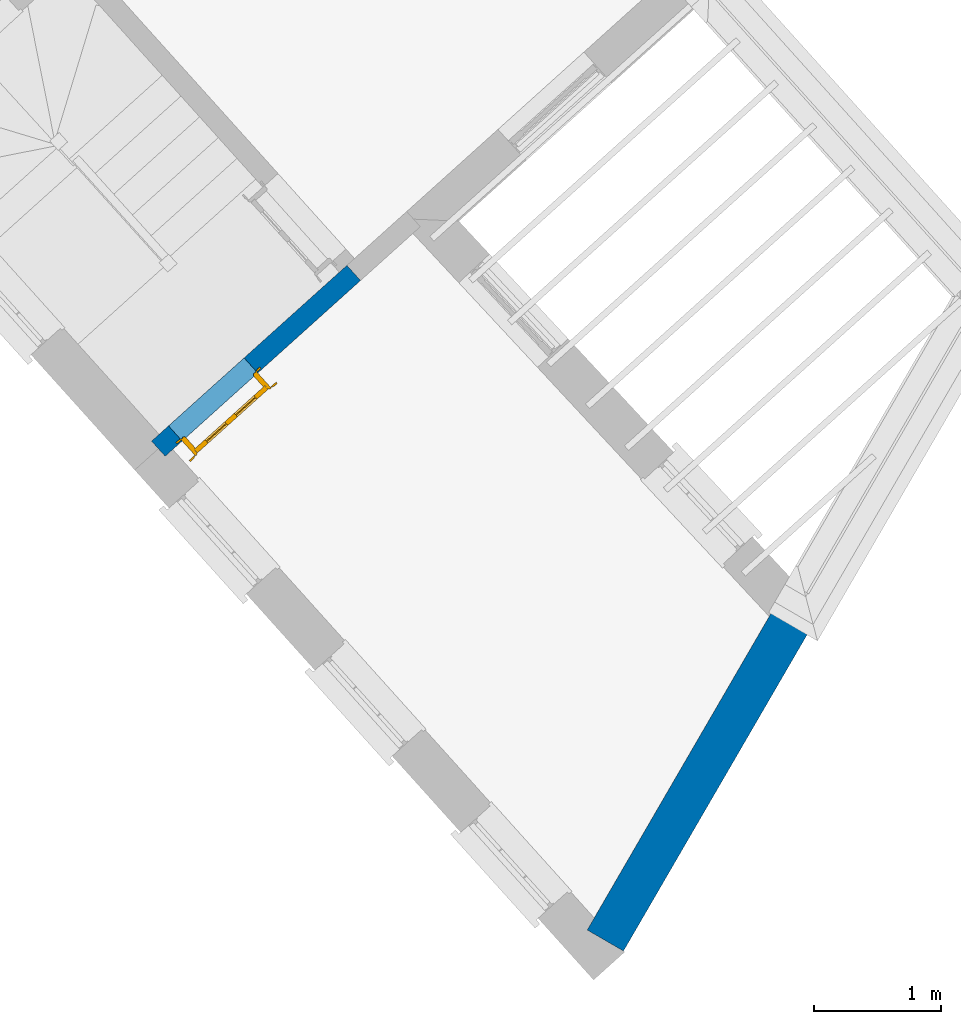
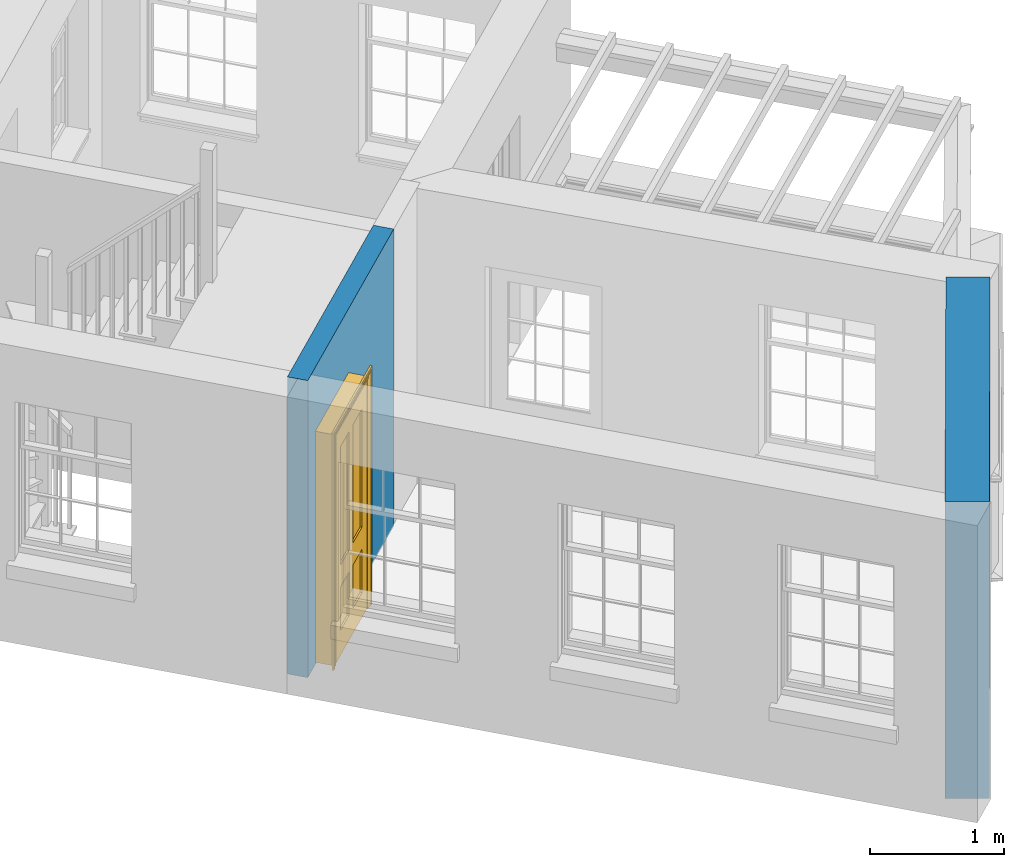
# One storey, part 2 of 7: 2 walls, 1 door, 1 opening.
"""IFC4 building model written with IfcOpenShell, lengths in metres."""

from ifc_helpers import new_model, si_unit, frame, origin, origin_with_axes, place, context, subcontext, project, spatial, polyline, outline, extrude, faceted_brep, source, transform, mapped, material, layer, layer_set, layer_usage, type_object, type_shapes, element, fill, save


model = new_model("IFC4")

# Units and contexts
model_context = context("Model", 3, world=origin_with_axes())
body_context = subcontext(model_context, "Body", "Model", "MODEL_VIEW")
ifc_project = project(units=[si_unit("PLANEANGLEUNIT", "RADIAN"), si_unit("MASSUNIT", "GRAM", prefix="KILO"), si_unit("FORCEUNIT", "NEWTON", prefix="KILO"), si_unit("LENGTHUNIT", "METRE"), si_unit("AREAUNIT", "SQUARE_METRE"), si_unit("VOLUMEUNIT", "CUBIC_METRE")], contexts=[model_context, model_context])

# Sites, building, storey
site_1_placement = place(None, origin_with_axes())
site_1 = spatial("IfcSite", under=ifc_project, at=site_1_placement, Name="Tamar")
site_2_placement = place(site_1_placement, origin_with_axes())
site_2 = spatial("IfcSite", under=site_1, at=site_2_placement, Name="Site plot-7", CompositionType="ELEMENT")
building_placement = place(None, origin_with_axes())
building = spatial("IfcBuilding", under=site_2, at=building_placement, Name="Building plot-7", CompositionType="ELEMENT")
storey_placement = place(None, frame((0.0, 0.0, 29.15), z_axis=(0.0, 0.0, 1.0), x_axis=(1.0, 0.0, 0.0)))
storey = spatial("IfcBuildingStorey", under=building, at=storey_placement, Name="plot-7 1", CompositionType="ELEMENT", Elevation=29.15)

# Wall
ifc_material_1 = material(Name="Masonry")
ifc_layer_1 = layer(ifc_material_1, 0.33, ventilated=False)
ifc_layer_set_1 = layer_set([ifc_layer_1], Name="party_0.08_0.25")
ifc_layer_usage_1 = layer_usage(ifc_layer_set_1, "AXIS2", "POSITIVE", -0.25)
wall_type_1 = type_object("IfcWallType", Name="party_0.08_0.25", PredefinedType="SOLIDWALL", material=ifc_layer_set_1)
wall_1_placement = place(storey_placement, frame((245.157517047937, 280.815311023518, 0.0), z_axis=(0.0, 0.0, 1.0), x_axis=(0.502058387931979, 0.864833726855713, 0.0)))
element("IfcWall", 1, at=wall_1_placement, inside=storey, type_object=wall_type_1, material=ifc_layer_usage_1, Name="party", context=body_context, shape_type="SweptSolid", body=[
    extrude(outline(polyline([(1.4233516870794e-14, 0.0800000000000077), (-8.3668757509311e-15, -0.250000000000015), (2.91324546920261, -0.250000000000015), (2.91324546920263, 0.0800000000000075), (1.4233516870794e-14, 0.0800000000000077)])), origin_with_axes(), (0.0, 0.0, 1.0), 2.7),
])

# Wall, opening, door
ifc_material_2 = material(Name="Masonry")
ifc_layer_2 = layer(ifc_material_2, 0.16, ventilated=False)
ifc_layer_set_2 = layer_set([ifc_layer_2], Name="interior_0.08_0.08")
ifc_layer_usage_2 = layer_usage(ifc_layer_set_2, "AXIS2", "POSITIVE", -0.08)
wall_type_2 = type_object("IfcWallType", Name="interior_0.08_0.08", PredefinedType="SOLIDWALL", material=ifc_layer_set_2)
wall_2_placement = place(storey_placement, frame((243.250490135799, 286.027875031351, 0.0), z_axis=(0.0, 0.0, 1.0), x_axis=(-0.743394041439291, -0.668853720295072, 0.0)))
wall_2 = element("IfcWall", 2, at=wall_2_placement, inside=storey, type_object=wall_type_2, material=ifc_layer_usage_2, Name="interior", context=body_context, shape_type="SweptSolid", body=[
    extrude(outline(polyline([(4.81699484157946e-15, 0.0800000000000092), (-4.79126487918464e-15, -0.0800000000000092), (2.0687703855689, -0.0800000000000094), (2.06877038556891, 0.0800000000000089), (4.81699484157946e-15, 0.0800000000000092)])), origin_with_axes(), (0.0, 0.0, 1.0), 2.7),
])
opening_placement = place(wall_2_placement, frame((1.08877038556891, 0.0, 0.0199999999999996)))
opening = element("IfcOpeningElement", 3, at=opening_placement, cuts=wall_2, Name="My Opening", ObjectType="Opening", context=body_context, shape_type="SweptSolid", body=[
    extrude(outline(polyline([(0.0, -0.0999999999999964), (0.799999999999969, -0.10000000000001), (0.799999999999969, 1.09999999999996), (8.88178419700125e-16, 1.09999999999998), (0.0, -0.0999999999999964)])), origin_with_axes(), (0.0, 0.0, 1.0), 2.1),
])
door_type = type_object("IfcDoorType", Name="door_inside", OperationType="SINGLE_SWING_LEFT", PredefinedType="NOTDEFINED")
shared_shape = source(origin(), body_context, "Body", "Brep", [
    faceted_brep([(0.773, 0.33, 1.895), (0.66, 0.33, 1.895), (0.66, 0.33, 2.073), (0.773, 0.33, 2.073), (0.773, 0.33, 0.82), (0.66, 0.33, 0.82), (0.45, 0.33, 1.895), (0.45, 0.33, 2.073), (0.773, 0.33, 0.62), (0.66, 0.33, 0.62), (0.66, 0.315, 0.82), (0.66, 0.315, 1.895), (0.45, 0.315, 1.895), (0.35, 0.33, 1.895), (0.35, 0.33, 2.073), (0.773, 0.33, 0.225), (0.66, 0.33, 0.225), (0.45, 0.33, 0.62), (0.45, 0.33, 0.82), (0.45, 0.315, 0.82), (0.35, 0.33, 0.82), (0.14, 0.33, 2.073), (0.14, 0.33, 1.895), (0.773, 0.33, 0.0), (0.66, 0.33, 0.0), (0.66, 0.315, 0.225), (0.66, 0.315, 0.62), (0.45, 0.315, 0.62), (0.35, 0.33, 0.62), (0.35, 0.315, 0.82), (0.35, 0.315, 1.895), (0.14, 0.315, 1.895), (0.027, 0.33, 2.073), (0.027, 0.33, 1.895), (0.773, 0.292, 0.0), (0.66, 0.292, 0.0), (0.45, 0.33, 0.0), (0.45, 0.33, 0.225), (0.45, 0.315, 0.225), (0.35, 0.33, 0.225), (0.14, 0.33, 0.82), (0.14, 0.33, 0.62), (0.14, 0.315, 0.82), (0.027, 0.33, 0.82), (0.773, 0.292, 0.225), (0.66, 0.292, 0.225), (0.45, 0.292, 0.0), (0.35, 0.33, 0.0), (0.35, 0.315, 0.225), (0.35, 0.315, 0.62), (0.14, 0.315, 0.62), (0.027, 0.33, 0.62), (0.773, 0.292, 0.62), (0.66, 0.292, 0.62), (0.45, 0.292, 0.225), (0.35, 0.292, 0.0), (0.14, 0.33, 0.225), (0.14, 0.33, 0.0), (0.14, 0.315, 0.225), (0.027, 0.33, 0.225), (0.773, 0.292, 0.82), (0.66, 0.292, 0.82), (0.66, 0.307, 0.62), (0.66, 0.307, 0.225), (0.45, 0.307, 0.225), (0.35, 0.292, 0.225), (0.14, 0.292, 0.0), (0.027, 0.33, 0.0), (0.773, 0.292, 1.895), (0.66, 0.292, 1.895), (0.45, 0.292, 0.62), (0.45, 0.292, 0.82), (0.45, 0.307, 0.62), (0.35, 0.292, 0.62), (0.14, 0.292, 0.225), (0.027, 0.292, 0.0), (0.773, 0.292, 2.073), (0.66, 0.292, 2.073), (0.66, 0.307, 1.895), (0.66, 0.307, 0.82), (0.45, 0.307, 0.82), (0.35, 0.292, 0.82), (0.35, 0.307, 0.62), (0.35, 0.307, 0.225), (0.14, 0.307, 0.225), (0.027, 0.292, 0.225), (0.45, 0.292, 1.895), (0.45, 0.292, 2.073), (0.45, 0.307, 1.895), (0.35, 0.292, 1.895), (0.14, 0.292, 0.82), (0.14, 0.292, 0.62), (0.14, 0.307, 0.62), (0.027, 0.292, 0.62), (0.35, 0.292, 2.073), (0.35, 0.307, 1.895), (0.35, 0.307, 0.82), (0.14, 0.307, 0.82), (0.027, 0.292, 0.82), (0.14, 0.292, 2.073), (0.14, 0.292, 1.895), (0.14, 0.307, 1.895), (0.027, 0.292, 1.895), (0.027, 0.292, 2.073), (0.02, 0.335, 0.0), (0.005, 0.34, 0.0), (0.005, 0.34, 2.095), (0.02, 0.335, 2.08), (0.02, 0.33, 0.0), (0.0, 0.335, 0.0), (0.0, 0.335, 2.1), (0.795, 0.34, 2.095), (0.78, 0.335, 2.08), (0.02, 0.33, 2.08), (0.0, 0.33, 0.0), (-0.032, 0.345, 0.0), (-0.032, 0.345, 2.132), (0.8, 0.335, 2.1), (0.795, 0.34, 0.0), (0.78, 0.335, 0.0), (0.78, 0.33, 2.08), (0.04, 0.29, 0.0), (0.025, 0.29, 0.0), (0.025, 0.29, 2.075), (0.04, 0.29, 2.06), (-0.04, 0.34, 0.0), (-0.04, 0.34, 2.14), (0.832, 0.345, 2.132), (0.8, 0.335, 0.0), (0.78, 0.33, 0.0), (0.8, 0.33, 0.0), (0.86, 0.33, 0.0), (0.86, 0.33, 2.16), (0.8, 0.33, 2.1), (-0.06, 0.33, 2.16), (0.0, 0.33, 2.1), (-0.06, 0.33, 0.0), (-0.04, 0.345, 0.0), (-0.04, 0.345, 2.14), (0.84, 0.34, 2.14), (0.832, 0.345, 0.0), (0.84, 0.34, 0.0), (0.86, 0.345, 0.0), (0.86, 0.345, 2.16), (-0.06, 0.345, 2.16), (-0.06, 0.345, 0.0), (0.84, 0.345, 0.0), (0.84, 0.345, 2.14), (-0.025, 0.155, 0.0), (-0.025, 0.16, 0.0), (-0.025, 0.16, 2.125), (-0.025, 0.155, 2.125), (-0.017, 0.155, 0.0), (-0.017, 0.155, 2.117), (0.825, 0.16, 2.125), (0.825, 0.155, 2.125), (0.825, 0.155, 0.0), (0.845, 0.155, 0.0), (-0.045, 0.155, 2.145), (-0.045, 0.155, 0.0), (0.845, 0.155, 2.145), (0.015, 0.165, 0.0), (0.015, 0.165, 2.085), (0.817, 0.155, 2.117), (0.825, 0.16, 0.0), (0.845, 0.17, 0.0), (0.845, 0.17, 2.145), (-0.045, 0.17, 2.145), (-0.045, 0.17, 0.0), (0.02, 0.16, 0.0), (0.02, 0.16, 2.08), (0.785, 0.165, 2.085), (0.817, 0.155, 0.0), (0.8, 0.17, 0.0), (0.8, 0.17, 2.1), (0.0, 0.17, 2.1), (0.0, 0.17, 0.0), (0.035, 0.165, 0.0), (0.035, 0.165, 2.065), (0.78, 0.16, 2.08), (0.785, 0.165, 0.0), (0.775, 0.29, 2.075), (0.76, 0.29, 2.06), (0.035, 0.17, 2.065), (0.035, 0.17, 0.0), (0.765, 0.165, 2.065), (0.78, 0.16, 0.0), (0.765, 0.17, 0.0), (0.765, 0.17, 2.065), (0.765, 0.165, 0.0), (0.04, 0.17, 2.06), (0.04, 0.17, 0.0), (0.76, 0.17, 2.06), (0.76, 0.17, 0.0), (0.76, 0.29, 0.0), (0.775, 0.29, 0.0), (0.025, 0.33, 0.0), (0.025, 0.33, 2.075), (0.775, 0.33, 0.0), (0.775, 0.33, 2.075)], [[[0, 1, 2, 3]], [[1, 0, 4, 5]], [[1, 6, 7, 2]], [[8, 9, 5, 4]], [[1, 5, 10, 11]], [[6, 1, 11, 12]], [[6, 13, 14, 7]], [[15, 16, 9, 8]], [[9, 17, 18, 5]], [[5, 18, 19, 10]], [[10, 19, 12, 11]], [[18, 6, 12, 19]], [[18, 20, 13, 6]], [[21, 14, 13, 22]], [[23, 24, 16, 15]], [[9, 16, 25, 26]], [[17, 9, 26, 27]], [[17, 28, 20, 18]], [[13, 20, 29, 30]], [[22, 13, 30, 31]], [[32, 21, 22, 33]], [[34, 35, 24, 23]], [[24, 36, 37, 16]], [[16, 37, 38, 25]], [[25, 38, 27, 26]], [[37, 17, 27, 38]], [[37, 39, 28, 17]], [[40, 20, 28, 41]], [[20, 40, 42, 29]], [[31, 30, 29, 42]], [[40, 22, 31, 42]], [[33, 22, 40, 43]], [[35, 34, 44, 45]], [[35, 46, 36, 24]], [[36, 47, 39, 37]], [[28, 39, 48, 49]], [[41, 28, 49, 50]], [[43, 40, 41, 51]], [[45, 44, 52, 53]], [[46, 35, 45, 54]], [[46, 55, 47, 36]], [[56, 39, 47, 57]], [[39, 56, 58, 48]], [[50, 49, 48, 58]], [[56, 41, 50, 58]], [[51, 41, 56, 59]], [[53, 52, 60, 61]], [[45, 53, 62, 63]], [[54, 45, 63, 64]], [[55, 46, 54, 65]], [[55, 66, 57, 47]], [[59, 56, 57, 67]], [[61, 60, 68, 69]], [[70, 53, 61, 71]], [[53, 70, 72, 62]], [[72, 64, 63, 62]], [[70, 54, 64, 72]], [[65, 54, 70, 73]], [[65, 74, 66, 55]], [[67, 57, 66, 75]], [[69, 68, 76, 77]], [[61, 69, 78, 79]], [[71, 61, 79, 80]], [[73, 70, 71, 81]], [[65, 73, 82, 83]], [[74, 65, 83, 84]], [[74, 85, 75, 66]], [[86, 69, 77, 87]], [[69, 86, 88, 78]], [[88, 80, 79, 78]], [[86, 71, 80, 88]], [[81, 71, 86, 89]], [[73, 81, 90, 91]], [[73, 91, 92, 82]], [[83, 82, 92, 84]], [[91, 74, 84, 92]], [[91, 93, 85, 74]], [[89, 86, 87, 94]], [[81, 89, 95, 96]], [[90, 81, 96, 97]], [[90, 98, 93, 91]], [[94, 99, 100, 89]], [[89, 100, 101, 95]], [[101, 97, 96, 95]], [[100, 90, 97, 101]], [[100, 102, 98, 90]], [[99, 103, 102, 100]], [[32, 103, 99, 21]], [[102, 103, 32, 33]], [[98, 102, 33, 43]], [[21, 99, 94, 14]], [[94, 87, 7, 14]], [[7, 87, 77, 2]], [[76, 3, 2, 77]], [[43, 51, 93, 98]], [[51, 59, 85, 93]], [[67, 75, 85, 59]], [[34, 23, 15, 44]], [[44, 15, 8, 52]], [[52, 8, 4, 60]], [[0, 68, 60, 4]], [[0, 3, 76, 68]], [[104, 105, 106, 107]], [[104, 108, 109, 105]], [[105, 109, 110, 106]], [[107, 106, 111, 112]], [[107, 113, 108, 104]], [[114, 109, 108]], [[109, 115, 116, 110]], [[106, 110, 117, 111]], [[112, 111, 118, 119]], [[113, 107, 112, 120]], [[121, 122, 123, 124]], [[115, 109, 114, 125]], [[115, 125, 126, 116]], [[110, 116, 127, 117]], [[111, 117, 128, 118]], [[118, 128, 129, 119]], [[120, 112, 119, 129]], [[130, 129, 128]], [[130, 131, 132, 133]], [[133, 132, 134, 135]], [[135, 134, 136, 114]], [[136, 125, 114]], [[125, 137, 138, 126]], [[116, 126, 139, 127]], [[117, 127, 140, 128]], [[141, 130, 128, 140]], [[131, 130, 141]], [[131, 142, 143, 132]], [[132, 143, 144, 134]], [[134, 144, 145, 136]], [[137, 125, 136, 145]], [[143, 142, 146]], [[143, 146, 147]], [[137, 145, 144]], [[143, 147, 138]], [[138, 137, 144]], [[143, 138, 144]], [[126, 138, 147, 139]], [[127, 139, 141, 140]], [[142, 131, 141, 146]], [[139, 147, 146, 141]], [[148, 149, 150, 151]], [[149, 152, 153, 150]], [[151, 150, 154, 155]], [[155, 156, 157]], [[158, 159, 148]], [[158, 148, 151]], [[155, 157, 160]], [[158, 151, 155]], [[155, 160, 158]], [[152, 161, 162, 153]], [[150, 153, 163, 154]], [[155, 154, 164, 156]], [[156, 164, 165, 157]], [[157, 165, 166, 160]], [[160, 166, 167, 158]], [[158, 167, 168, 159]], [[161, 169, 170, 162]], [[153, 162, 171, 163]], [[154, 163, 172, 164]], [[165, 164, 173]], [[165, 173, 174, 166]], [[166, 174, 175, 167]], [[167, 175, 176, 168]], [[169, 177, 178, 170]], [[162, 170, 179, 171]], [[163, 171, 180, 172]], [[172, 180, 173, 164]], [[124, 123, 181, 182]], [[183, 178, 177, 184]], [[170, 178, 185, 179]], [[171, 179, 186, 180]], [[187, 173, 180]], [[185, 188, 187, 189]], [[188, 185, 178, 183]], [[179, 185, 189, 186]], [[189, 187, 180, 186]], [[190, 183, 184, 191]], [[192, 188, 183, 190]], [[191, 184, 122, 121]], [[124, 190, 191, 121]], [[193, 187, 188, 192]], [[182, 192, 190, 124]], [[184, 176, 122]], [[194, 195, 187, 193]], [[192, 182, 194, 193]], [[161, 176, 184]], [[114, 108, 122, 176]], [[173, 187, 195]], [[152, 149, 176, 161]], [[169, 161, 184, 177]], [[196, 122, 108]], [[176, 175, 135, 114]], [[173, 195, 129, 130]], [[176, 149, 168]], [[123, 122, 196, 197]], [[196, 108, 113, 197]], [[175, 174, 133, 135]], [[198, 129, 195]], [[133, 174, 173, 130]], [[159, 168, 149, 148]], [[181, 123, 197, 199]], [[197, 113, 120, 199]], [[199, 120, 129, 198]], [[195, 181, 199, 198]], [[195, 194, 182, 181]]]),
])
type_shapes(door_type, [shared_shape])
door_placement = place(storey_placement, frame((242.374219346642, 285.37398631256, 0.0199999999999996), z_axis=(0.0, 0.0, 1.0), x_axis=(-0.594715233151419, -0.535082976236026, 0.0)))
door = element("IfcDoor", 4, at=door_placement, inside=storey, type_object=door_type, Name="bedroom inside door", OverallHeight=2.1, OverallWidth=0.8, context=body_context, shape_type="MappedRepresentation", body=[
    mapped(shared_shape, transform((0.0, 0.0, 0.0), scale=1.0)),
])
fill(opening, door)

save(model, "model.ifc")
